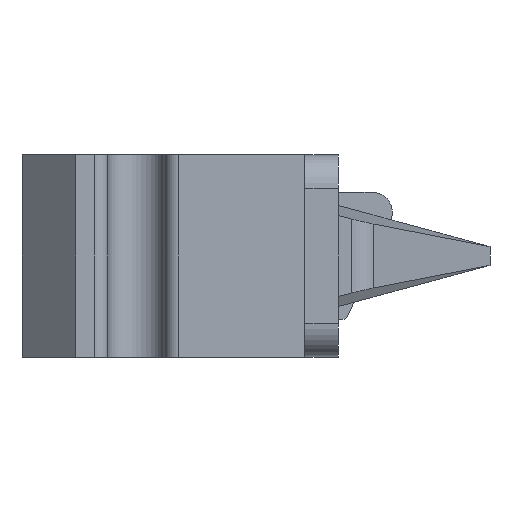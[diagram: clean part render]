
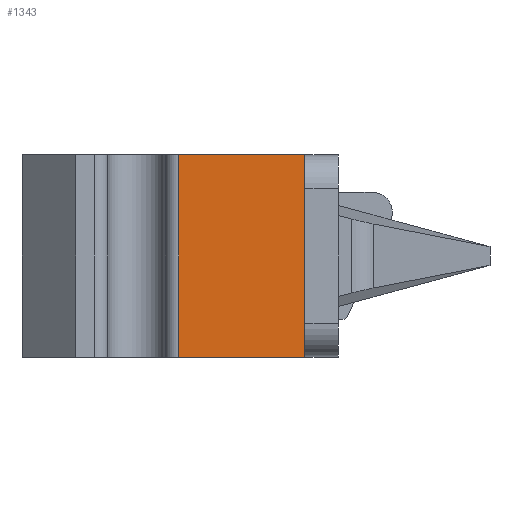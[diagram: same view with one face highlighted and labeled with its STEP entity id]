
A CAD part, left-side view. The second image highlights one B-rep face of the part: STEP entity #1343.
In plain terms, the highlighted planar face has unit normal (-1, 0, 0).
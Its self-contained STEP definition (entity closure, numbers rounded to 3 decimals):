
#108=FACE_OUTER_BOUND('',#184,.T.);
#184=EDGE_LOOP('',(#1144,#1145,#1146,#1147));
#257=LINE('',#2065,#397);
#276=LINE('',#2112,#416);
#295=LINE('',#2160,#435);
#333=LINE('',#2250,#473);
#397=VECTOR('',#1686,10.);
#416=VECTOR('',#1717,10.);
#435=VECTOR('',#1750,10.);
#473=VECTOR('',#1840,10.);
#596=VERTEX_POINT('',#2062);
#597=VERTEX_POINT('',#2064);
#619=VERTEX_POINT('',#2110);
#641=VERTEX_POINT('',#2158);
#753=EDGE_CURVE('',#597,#596,#257,.T.);
#777=EDGE_CURVE('',#619,#596,#276,.T.);
#801=EDGE_CURVE('',#619,#641,#295,.T.);
#847=EDGE_CURVE('',#641,#597,#333,.T.);
#1144=ORIENTED_EDGE('',*,*,#801,.T.);
#1145=ORIENTED_EDGE('',*,*,#847,.T.);
#1146=ORIENTED_EDGE('',*,*,#753,.T.);
#1147=ORIENTED_EDGE('',*,*,#777,.F.);
#1279=PLANE('',#1485);
#1343=ADVANCED_FACE('',(#108),#1279,.T.);
#1485=AXIS2_PLACEMENT_3D('',#2249,#1838,#1839);
#1686=DIRECTION('',(0.,-1.,0.));
#1717=DIRECTION('',(0.,0.,-1.));
#1750=DIRECTION('',(0.,1.,0.));
#1838=DIRECTION('center_axis',(-1.,0.,0.));
#1839=DIRECTION('ref_axis',(0.,0.,1.));
#1840=DIRECTION('',(0.,0.,-1.));
#2062=CARTESIAN_POINT('',(-162.5,5.,-15.));
#2064=CARTESIAN_POINT('',(-162.5,23.75,-15.));
#2065=CARTESIAN_POINT('',(-162.5,5.,-15.));
#2110=CARTESIAN_POINT('',(-162.5,5.,15.));
#2112=CARTESIAN_POINT('',(-162.5,5.,0.));
#2158=CARTESIAN_POINT('',(-162.5,23.75,15.));
#2160=CARTESIAN_POINT('',(-162.5,5.,15.));
#2249=CARTESIAN_POINT('Origin',(-162.5,5.,0.));
#2250=CARTESIAN_POINT('',(-162.5,23.75,0.));
